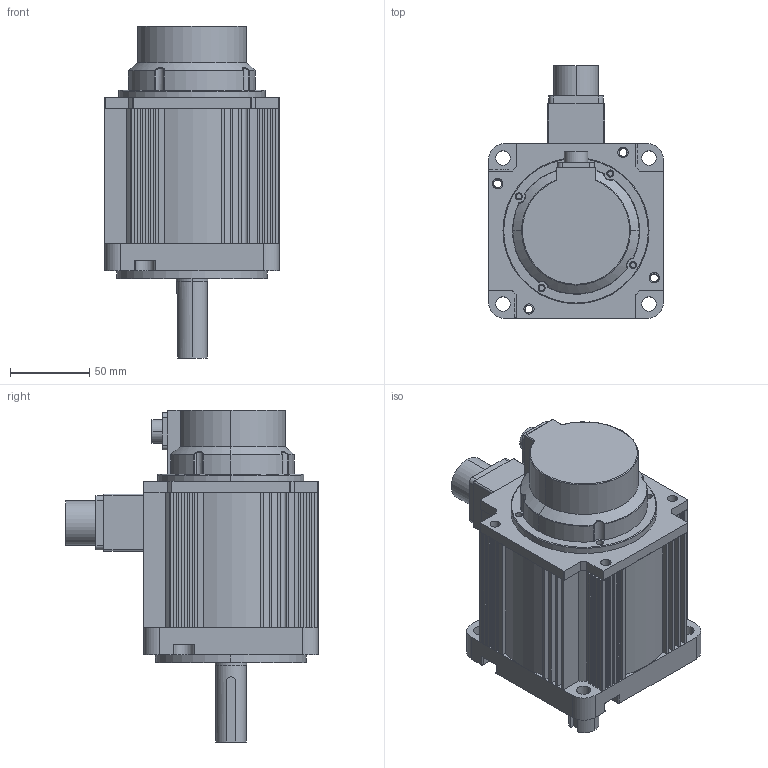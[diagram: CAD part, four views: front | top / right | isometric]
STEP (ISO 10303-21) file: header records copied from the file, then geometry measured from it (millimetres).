
FILE_DESCRIPTION (( 'STEP AP203' ), '1' );
FILE_NAME ('110A-042.STEP', '2024-09-10T11:50:30', ( '' ), ( '' ), 'SwSTEP 2.0', 'SolidWorks 2018', '' );
FILE_SCHEMA (( 'CONFIG_CONTROL_DESIGN' ));
Length unit declared in the file: millimetre
Products named in the file (10): 蛌粣; 110A-042; 蚐猾; 18-10; 110A綴欶; 諉盄釱; 儂褲 -4.2; 綴傷裔; ヶ傷裔; SC-CMV1-R10P-E
Assembly tree (9 placements, depth 2):
  110A-042
    110A綴欶
    18-10
    SC-CMV1-R10P-E
    綴傷裔
    諉盄釱
    ヶ傷裔
    蚐猾
    蛌粣
    儂褲 -4.2
Bounding box: 110 x 159 x 209 mm (x, y, z)
Volume: 570266.3 mm3; surface area: 248443.3 mm2
Topology: 9 solids, 9 shells, 766 faces, 2039 edges, 1322 vertices
Faces by surface type: plane 343, cylinder 341, cone 39, torus 22, sphere 16, bspline 5
Entity records: 25907 total; most frequent: CARTESIAN_POINT 5184, DIRECTION 4253, ORIENTED_EDGE 4018, EDGE_CURVE 2009, AXIS2_PLACEMENT_3D 1536, VERTEX_POINT 1314, LINE 1181, VECTOR 1181
